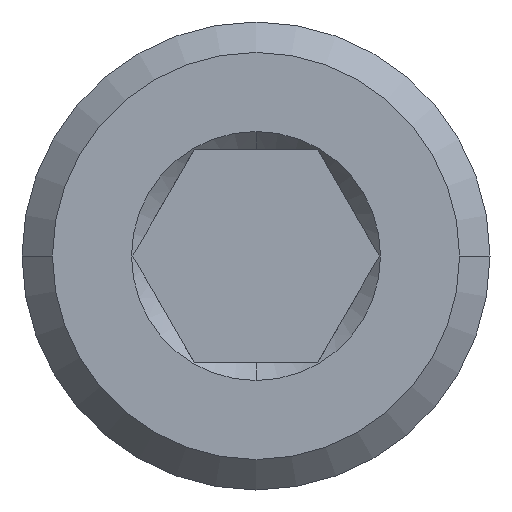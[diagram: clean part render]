
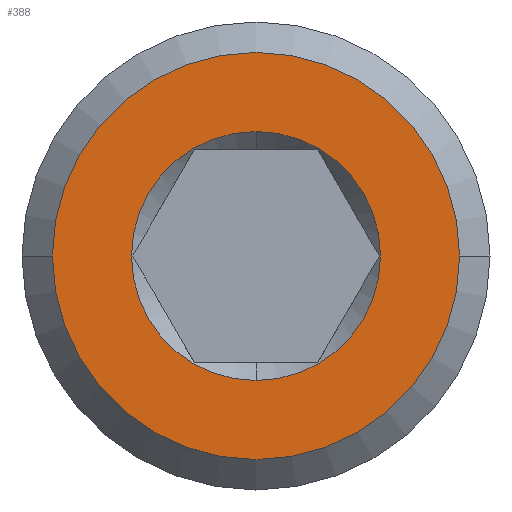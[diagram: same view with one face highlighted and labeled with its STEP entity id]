
A CAD part, left-side view. The second image highlights one B-rep face of the part: STEP entity #388.
In plain terms, the highlighted planar face has unit normal (-1, 0, 0).
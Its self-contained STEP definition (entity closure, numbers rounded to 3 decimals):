
#13=CARTESIAN_POINT('',(0.,0.,0.));
#14=DIRECTION('',(-1.,0.,0.));
#15=DIRECTION('',(0.,1.,0.));
#16=AXIS2_PLACEMENT_3D('',#13,#14,#15);
#18=CARTESIAN_POINT('',(0.,0.,0.));
#19=DIRECTION('',(1.,0.,0.));
#20=DIRECTION('',(0.,1.,0.));
#21=AXIS2_PLACEMENT_3D('',#18,#19,#20);
#23=CARTESIAN_POINT('',(0.,0.,0.));
#24=DIRECTION('',(-1.,0.,0.));
#25=DIRECTION('',(0.,0.,1.));
#26=AXIS2_PLACEMENT_3D('',#23,#24,#25);
#28=CARTESIAN_POINT('',(0.,0.,0.));
#29=DIRECTION('',(-1.,0.,0.));
#30=DIRECTION('',(0.,0.,-1.));
#31=AXIS2_PLACEMENT_3D('',#28,#29,#30);
#327=CARTESIAN_POINT('',(0.,5.723,0.));
#328=VERTEX_POINT('',#327);
#341=CARTESIAN_POINT('',(0.,-5.723,0.));
#342=VERTEX_POINT('',#341);
#359=CARTESIAN_POINT('',(0.,0.,3.5));
#360=CARTESIAN_POINT('',(0.,0.,-3.5));
#361=VERTEX_POINT('',#359);
#362=VERTEX_POINT('',#360);
#371=CARTESIAN_POINT('',(0.,0.,0.));
#372=DIRECTION('',(-1.,0.,0.));
#373=DIRECTION('',(0.,1.,0.));
#374=AXIS2_PLACEMENT_3D('',#371,#372,#373);
#375=PLANE('',#374);
#377=ORIENTED_EDGE('',*,*,#376,.F.);
#379=ORIENTED_EDGE('',*,*,#378,.T.);
#380=EDGE_LOOP('',(#377,#379));
#381=FACE_OUTER_BOUND('',#380,.F.);
#383=ORIENTED_EDGE('',*,*,#382,.T.);
#385=ORIENTED_EDGE('',*,*,#384,.T.);
#386=EDGE_LOOP('',(#383,#385));
#387=FACE_BOUND('',#386,.F.);
#388=ADVANCED_FACE('',(#381,#387),#375,.T.);
#17=CIRCLE('',#16,5.723);
#22=CIRCLE('',#21,5.723);
#27=CIRCLE('',#26,3.5);
#32=CIRCLE('',#31,3.5);
#376=EDGE_CURVE('',#328,#342,#17,.T.);
#378=EDGE_CURVE('',#328,#342,#22,.T.);
#382=EDGE_CURVE('',#361,#362,#27,.T.);
#384=EDGE_CURVE('',#362,#361,#32,.T.);
